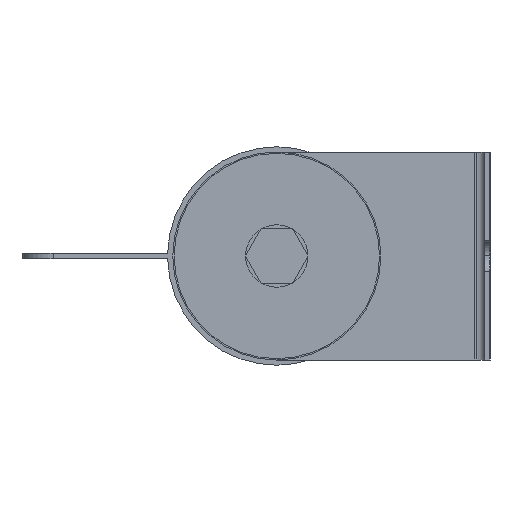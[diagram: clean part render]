
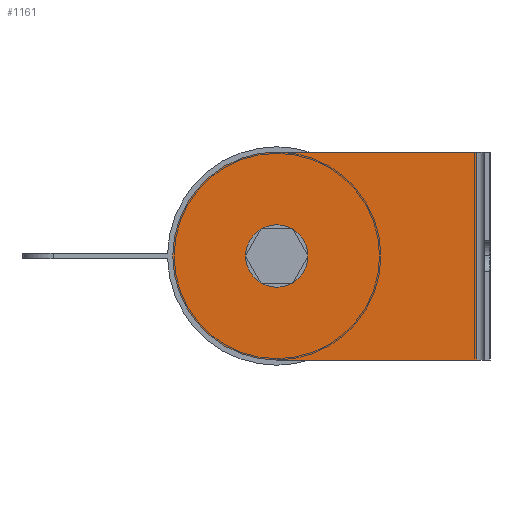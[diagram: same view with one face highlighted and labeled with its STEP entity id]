
A CAD part, left-side view. The second image highlights one B-rep face of the part: STEP entity #1161.
In plain terms, the highlighted planar face has unit normal (-1, 0, 0).
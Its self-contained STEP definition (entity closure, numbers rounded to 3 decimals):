
#9 = CARTESIAN_POINT ( 'NONE',  ( -282.5, -38.5, -20. ) ) ;
#23 = EDGE_LOOP ( 'NONE', ( #1830, #352, #344, #723 ) ) ;
#82 = CARTESIAN_POINT ( 'NONE',  ( -282.5, 0., 0. ) ) ;
#146 = LINE ( 'NONE', #1971, #2437 ) ;
#165 = VERTEX_POINT ( 'NONE', #9 ) ;
#173 = LINE ( 'NONE', #1517, #2503 ) ;
#213 = DIRECTION ( 'NONE',  ( -1., 0., 0. ) ) ;
#243 = DIRECTION ( 'NONE',  ( 0., 0., 1. ) ) ;
#288 = CIRCLE ( 'NONE', #1033, 6. ) ;
#328 = VERTEX_POINT ( 'NONE', #374 ) ;
#331 = VERTEX_POINT ( 'NONE', #1802 ) ;
#344 = ORIENTED_EDGE ( 'NONE', *, *, #1102, .T. ) ;
#352 = ORIENTED_EDGE ( 'NONE', *, *, #2637, .T. ) ;
#374 = CARTESIAN_POINT ( 'NONE',  ( -282.5, -38.5, 20. ) ) ;
#408 = DIRECTION ( 'NONE',  ( 0., 0., 1. ) ) ;
#454 = CIRCLE ( 'NONE', #1243, 6. ) ;
#483 = VERTEX_POINT ( 'NONE', #494 ) ;
#494 = CARTESIAN_POINT ( 'NONE',  ( -282.5, 0., -6. ) ) ;
#528 = AXIS2_PLACEMENT_3D ( 'NONE', #82, #1705, #1697 ) ;
#714 = EDGE_CURVE ( 'NONE', #483, #844, #454, .T. ) ;
#723 = ORIENTED_EDGE ( 'NONE', *, *, #1155, .T. ) ;
#844 = VERTEX_POINT ( 'NONE', #1728 ) ;
#860 = DIRECTION ( 'NONE',  ( -1., 0., 0. ) ) ;
#875 = EDGE_CURVE ( 'NONE', #331, #165, #146, .T. ) ;
#879 = CARTESIAN_POINT ( 'NONE',  ( -282.5, 0., 20. ) ) ;
#933 = CARTESIAN_POINT ( 'NONE',  ( -282.5, -38.5, 20. ) ) ;
#936 = DIRECTION ( 'NONE',  ( 0., -1., 0. ) ) ;
#1033 = AXIS2_PLACEMENT_3D ( 'NONE', #1443, #860, #243 ) ;
#1102 = EDGE_CURVE ( 'NONE', #328, #1220, #173, .T. ) ;
#1155 = EDGE_CURVE ( 'NONE', #1220, #331, #2244, .T. ) ;
#1161 = ADVANCED_FACE ( 'NONE', ( #2137, #2367 ), #2358, .T. ) ;
#1220 = VERTEX_POINT ( 'NONE', #879 ) ;
#1243 = AXIS2_PLACEMENT_3D ( 'NONE', #2029, #213, #408 ) ;
#1443 = CARTESIAN_POINT ( 'NONE',  ( -282.5, 0., 0. ) ) ;
#1517 = CARTESIAN_POINT ( 'NONE',  ( -282.5, 0., 20. ) ) ;
#1528 = DIRECTION ( 'NONE',  ( -1., 0., 0. ) ) ;
#1697 = DIRECTION ( 'NONE',  ( 0., 0., 1. ) ) ;
#1705 = DIRECTION ( 'NONE',  ( -1., 0., 0. ) ) ;
#1726 = VECTOR ( 'NONE', #2175, 1000. ) ;
#1727 = CARTESIAN_POINT ( 'NONE',  ( -282.5, 0., 0. ) ) ;
#1728 = CARTESIAN_POINT ( 'NONE',  ( -282.5, 0., 6. ) ) ;
#1771 = ORIENTED_EDGE ( 'NONE', *, *, #714, .F. ) ;
#1802 = CARTESIAN_POINT ( 'NONE',  ( -282.5, 0., -20. ) ) ;
#1814 = ORIENTED_EDGE ( 'NONE', *, *, #1949, .F. ) ;
#1830 = ORIENTED_EDGE ( 'NONE', *, *, #875, .T. ) ;
#1914 = DIRECTION ( 'NONE',  ( 0., 1., 0. ) ) ;
#1949 = EDGE_CURVE ( 'NONE', #844, #483, #288, .T. ) ;
#1971 = CARTESIAN_POINT ( 'NONE',  ( -282.5, 0., -20. ) ) ;
#2029 = CARTESIAN_POINT ( 'NONE',  ( -282.5, 0., 0. ) ) ;
#2051 = LINE ( 'NONE', #933, #1726 ) ;
#2116 = AXIS2_PLACEMENT_3D ( 'NONE', #1727, #1528, #2149 ) ;
#2137 = FACE_BOUND ( 'NONE', #2303, .T. ) ;
#2149 = DIRECTION ( 'NONE',  ( 0., 0., 1. ) ) ;
#2175 = DIRECTION ( 'NONE',  ( 0., 0., 1. ) ) ;
#2244 = CIRCLE ( 'NONE', #2116, 20. ) ;
#2303 = EDGE_LOOP ( 'NONE', ( #1771, #1814 ) ) ;
#2358 = PLANE ( 'NONE',  #528 ) ;
#2367 = FACE_OUTER_BOUND ( 'NONE', #23, .T. ) ;
#2437 = VECTOR ( 'NONE', #936, 1000. ) ;
#2503 = VECTOR ( 'NONE', #1914, 1000. ) ;
#2637 = EDGE_CURVE ( 'NONE', #165, #328, #2051, .T. ) ;
